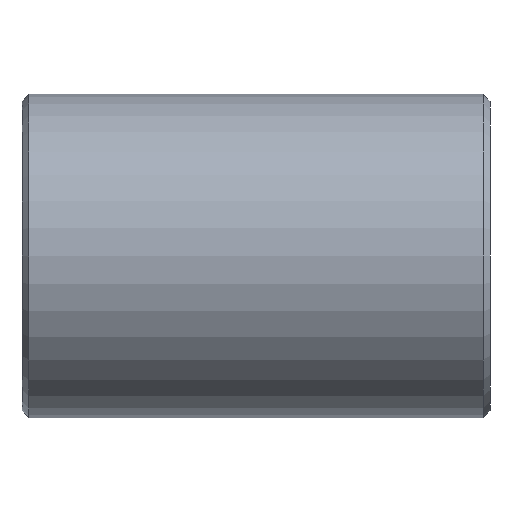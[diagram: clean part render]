
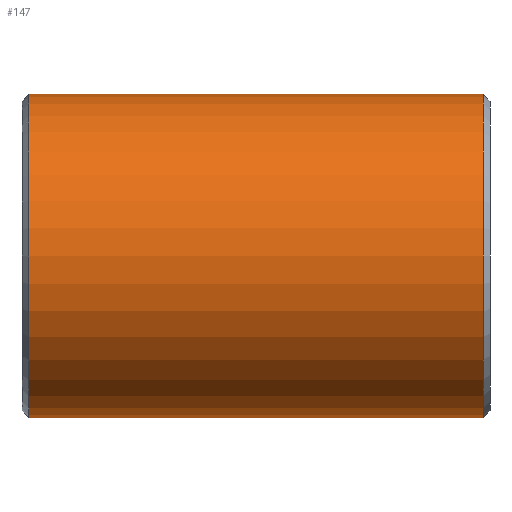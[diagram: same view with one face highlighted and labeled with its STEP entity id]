
A CAD part, front view. The second image highlights one B-rep face of the part: STEP entity #147.
In plain terms, the highlighted cylindrical face has radius 23.5 mm (diameter 47 mm), a partial arc.
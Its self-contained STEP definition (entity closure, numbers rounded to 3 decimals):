
#2 = AXIS2_PLACEMENT_3D ( 'NONE', #54, #264, #8 ) ;
#4 = CYLINDRICAL_SURFACE ( 'NONE', #276, 23.5 ) ;
#7 = DIRECTION ( 'NONE',  ( -1., 0., 0. ) ) ;
#8 = DIRECTION ( 'NONE',  ( 0., 0., -1. ) ) ;
#21 = DIRECTION ( 'NONE',  ( 0., 0., 1. ) ) ;
#28 = VECTOR ( 'NONE', #425, 1000. ) ;
#31 = EDGE_CURVE ( 'NONE', #367, #434, #261, .T. ) ;
#37 = CIRCLE ( 'NONE', #2, 23.5 ) ;
#54 = CARTESIAN_POINT ( 'NONE',  ( 1., 0., 0. ) ) ;
#56 = AXIS2_PLACEMENT_3D ( 'NONE', #263, #7, #230 ) ;
#62 = DIRECTION ( 'NONE',  ( -1., 0., 0. ) ) ;
#63 = VERTEX_POINT ( 'NONE', #114 ) ;
#65 = CARTESIAN_POINT ( 'NONE',  ( 0., 0., -23.5 ) ) ;
#68 = CIRCLE ( 'NONE', #56, 23.5 ) ;
#69 = ORIENTED_EDGE ( 'NONE', *, *, #245, .T. ) ;
#114 = CARTESIAN_POINT ( 'NONE',  ( 67., 0., 23.5 ) ) ;
#126 = LINE ( 'NONE', #294, #28 ) ;
#144 = DIRECTION ( 'NONE',  ( -1., 0., 0. ) ) ;
#147 = ADVANCED_FACE ( 'NONE', ( #311 ), #4, .T. ) ;
#186 = EDGE_LOOP ( 'NONE', ( #283, #69, #352, #414 ) ) ;
#201 = EDGE_CURVE ( 'NONE', #400, #434, #37, .T. ) ;
#226 = CARTESIAN_POINT ( 'NONE',  ( 1., 0., 23.5 ) ) ;
#230 = DIRECTION ( 'NONE',  ( 0., 0., 1. ) ) ;
#245 = EDGE_CURVE ( 'NONE', #367, #63, #68, .T. ) ;
#261 = LINE ( 'NONE', #65, #413 ) ;
#263 = CARTESIAN_POINT ( 'NONE',  ( 67., 0., 0. ) ) ;
#264 = DIRECTION ( 'NONE',  ( 1., 0., 0. ) ) ;
#271 = CARTESIAN_POINT ( 'NONE',  ( 0., 0., 0. ) ) ;
#276 = AXIS2_PLACEMENT_3D ( 'NONE', #271, #62, #21 ) ;
#283 = ORIENTED_EDGE ( 'NONE', *, *, #31, .F. ) ;
#288 = CARTESIAN_POINT ( 'NONE',  ( 67., 0., -23.5 ) ) ;
#294 = CARTESIAN_POINT ( 'NONE',  ( 0., 0., 23.5 ) ) ;
#298 = EDGE_CURVE ( 'NONE', #63, #400, #126, .T. ) ;
#311 = FACE_OUTER_BOUND ( 'NONE', #186, .T. ) ;
#317 = CARTESIAN_POINT ( 'NONE',  ( 1., 0., -23.5 ) ) ;
#352 = ORIENTED_EDGE ( 'NONE', *, *, #298, .T. ) ;
#367 = VERTEX_POINT ( 'NONE', #288 ) ;
#400 = VERTEX_POINT ( 'NONE', #226 ) ;
#413 = VECTOR ( 'NONE', #144, 1000. ) ;
#414 = ORIENTED_EDGE ( 'NONE', *, *, #201, .T. ) ;
#425 = DIRECTION ( 'NONE',  ( -1., 0., 0. ) ) ;
#434 = VERTEX_POINT ( 'NONE', #317 ) ;
